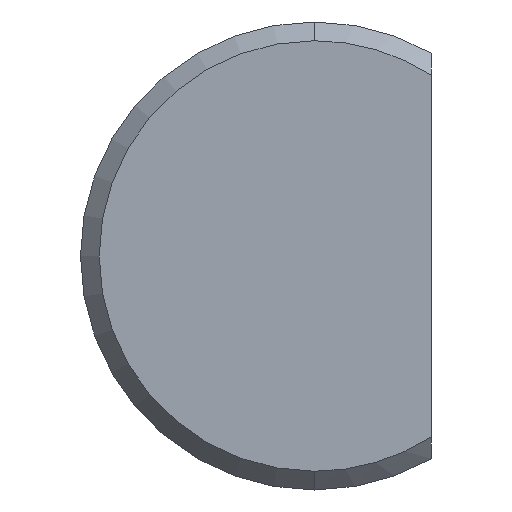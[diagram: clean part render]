
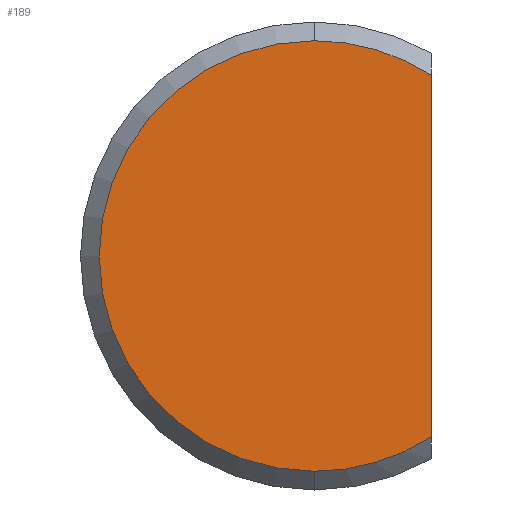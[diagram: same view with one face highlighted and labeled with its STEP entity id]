
A CAD part, front view. The second image highlights one B-rep face of the part: STEP entity #189.
In plain terms, the highlighted planar face has unit normal (0, -1, 0).
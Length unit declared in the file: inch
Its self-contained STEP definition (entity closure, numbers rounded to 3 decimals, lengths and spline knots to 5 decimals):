
#13 = CARTESIAN_POINT ( 'NONE',  ( 0., 0., 0. ) ) ;
#25 = DIRECTION ( 'NONE',  ( 0., 0., -1. ) ) ;
#47 = DIRECTION ( 'NONE',  ( 0., 0., -1. ) ) ;
#52 = CARTESIAN_POINT ( 'NONE',  ( 0.0625, 0., 0.09653 ) ) ;
#97 = DIRECTION ( 'NONE',  ( 0., 0., -1. ) ) ;
#102 = VERTEX_POINT ( 'NONE', #468 ) ;
#103 = CIRCLE ( 'NONE', #290, 0.115 ) ;
#105 = DIRECTION ( 'NONE',  ( 0., -1., 0. ) ) ;
#114 = EDGE_LOOP ( 'NONE', ( #552, #221, #237, #282 ) ) ;
#124 = AXIS2_PLACEMENT_3D ( 'NONE', #13, #504, #231 ) ;
#133 = DIRECTION ( 'NONE',  ( 0., -1., 0. ) ) ;
#137 = DIRECTION ( 'NONE',  ( 0., 0., 1. ) ) ;
#162 = AXIS2_PLACEMENT_3D ( 'NONE', #217, #105, #47 ) ;
#179 = VERTEX_POINT ( 'NONE', #473 ) ;
#189 = ADVANCED_FACE ( 'NONE', ( #424 ), #260, .T. ) ;
#191 = CARTESIAN_POINT ( 'NONE',  ( 0., 0., 0. ) ) ;
#211 = CARTESIAN_POINT ( 'NONE',  ( 0.0625, 0., -0.09653 ) ) ;
#217 = CARTESIAN_POINT ( 'NONE',  ( 0., 0., 0. ) ) ;
#221 = ORIENTED_EDGE ( 'NONE', *, *, #306, .T. ) ;
#231 = DIRECTION ( 'NONE',  ( 0., 0., -1. ) ) ;
#233 = VERTEX_POINT ( 'NONE', #52 ) ;
#237 = ORIENTED_EDGE ( 'NONE', *, *, #581, .T. ) ;
#260 = PLANE ( 'NONE',  #340 ) ;
#282 = ORIENTED_EDGE ( 'NONE', *, *, #536, .T. ) ;
#290 = AXIS2_PLACEMENT_3D ( 'NONE', #300, #133, #25 ) ;
#300 = CARTESIAN_POINT ( 'NONE',  ( 0., 0., 0. ) ) ;
#304 = CARTESIAN_POINT ( 'NONE',  ( 0.0625, 0., 0.10825 ) ) ;
#306 = EDGE_CURVE ( 'NONE', #102, #179, #520, .T. ) ;
#322 = VECTOR ( 'NONE', #137, 39.37008 ) ;
#340 = AXIS2_PLACEMENT_3D ( 'NONE', #191, #478, #97 ) ;
#367 = VERTEX_POINT ( 'NONE', #211 ) ;
#382 = EDGE_CURVE ( 'NONE', #233, #102, #534, .T. ) ;
#424 = FACE_OUTER_BOUND ( 'NONE', #114, .T. ) ;
#468 = CARTESIAN_POINT ( 'NONE',  ( 0., 0., 0.115 ) ) ;
#473 = CARTESIAN_POINT ( 'NONE',  ( 0., 0., -0.115 ) ) ;
#478 = DIRECTION ( 'NONE',  ( 0., -1., 0. ) ) ;
#504 = DIRECTION ( 'NONE',  ( 0., -1., 0. ) ) ;
#520 = CIRCLE ( 'NONE', #162, 0.115 ) ;
#534 = CIRCLE ( 'NONE', #124, 0.115 ) ;
#536 = EDGE_CURVE ( 'NONE', #367, #233, #674, .T. ) ;
#552 = ORIENTED_EDGE ( 'NONE', *, *, #382, .T. ) ;
#581 = EDGE_CURVE ( 'NONE', #179, #367, #103, .T. ) ;
#674 = LINE ( 'NONE', #304, #322 ) ;
